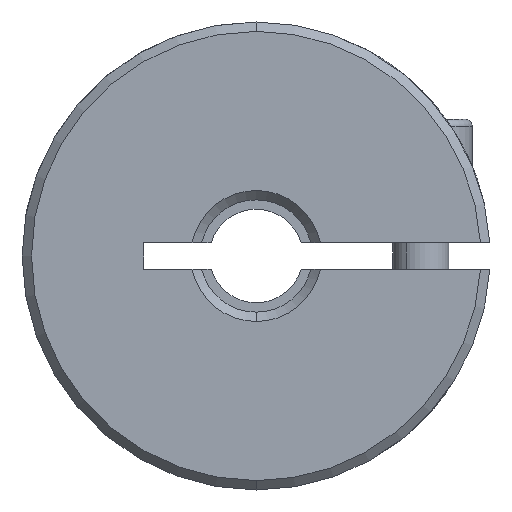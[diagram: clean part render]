
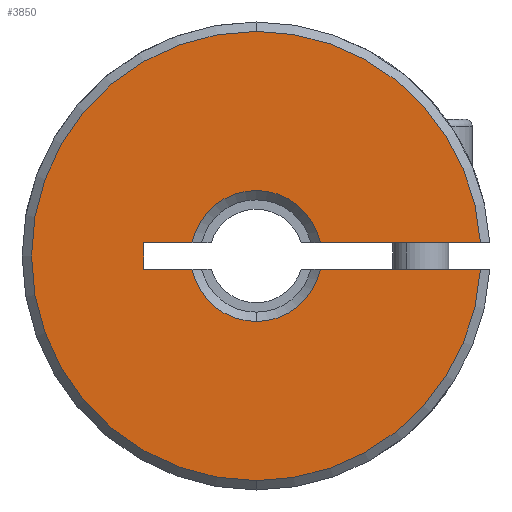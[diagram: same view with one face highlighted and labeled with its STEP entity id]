
A CAD part, front view. The second image highlights one B-rep face of the part: STEP entity #3850.
In plain terms, the highlighted planar face has unit normal (0, -1, 0).
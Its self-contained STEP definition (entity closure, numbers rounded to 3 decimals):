
#8 = AXIS2_PLACEMENT_3D ( 'NONE', #5583, #953, #74 ) ;
#74 = DIRECTION ( 'NONE',  ( 0., 0., 1. ) ) ;
#116 = VERTEX_POINT ( 'NONE', #2415 ) ;
#156 = ORIENTED_EDGE ( 'NONE', *, *, #5700, .T. ) ;
#168 = EDGE_CURVE ( 'NONE', #2471, #116, #1772, .T. ) ;
#170 = DIRECTION ( 'NONE',  ( 0., 1., 0. ) ) ;
#187 = LINE ( 'NONE', #5220, #5773 ) ;
#231 = CARTESIAN_POINT ( 'NONE',  ( 0., 0.25, 0. ) ) ;
#282 = ORIENTED_EDGE ( 'NONE', *, *, #2286, .F. ) ;
#663 = EDGE_CURVE ( 'NONE', #2029, #2471, #1395, .T. ) ;
#723 = VERTEX_POINT ( 'NONE', #3564 ) ;
#783 = CARTESIAN_POINT ( 'NONE',  ( 0., 0.25, 12. ) ) ;
#937 = ORIENTED_EDGE ( 'NONE', *, *, #4860, .F. ) ;
#953 = DIRECTION ( 'NONE',  ( 0., 1., 0. ) ) ;
#1044 = CARTESIAN_POINT ( 'NONE',  ( -3.429, 0.25, 0.7 ) ) ;
#1133 = DIRECTION ( 'NONE',  ( 0., 0., 1. ) ) ;
#1171 = LINE ( 'NONE', #5336, #2785 ) ;
#1395 = CIRCLE ( 'NONE', #1884, 12. ) ;
#1421 = ORIENTED_EDGE ( 'NONE', *, *, #663, .T. ) ;
#1518 = CARTESIAN_POINT ( 'NONE',  ( 0., 0.25, 0. ) ) ;
#1539 = DIRECTION ( 'NONE',  ( -1., 0., 0. ) ) ;
#1721 = DIRECTION ( 'NONE',  ( 0., 0., -1. ) ) ;
#1731 = PLANE ( 'NONE',  #3579 ) ;
#1772 = CIRCLE ( 'NONE', #4702, 12. ) ;
#1823 = VERTEX_POINT ( 'NONE', #5171 ) ;
#1884 = AXIS2_PLACEMENT_3D ( 'NONE', #2209, #4805, #4377 ) ;
#1959 = EDGE_CURVE ( 'NONE', #4342, #3743, #3010, .T. ) ;
#2029 = VERTEX_POINT ( 'NONE', #783 ) ;
#2055 = DIRECTION ( 'NONE',  ( -1., 0., 0. ) ) ;
#2209 = CARTESIAN_POINT ( 'NONE',  ( 0., 0.25, 0. ) ) ;
#2286 = EDGE_CURVE ( 'NONE', #3743, #3174, #1171, .T. ) ;
#2319 = DIRECTION ( 'NONE',  ( 0., 0., 1. ) ) ;
#2351 = CIRCLE ( 'NONE', #3674, 12. ) ;
#2410 = DIRECTION ( 'NONE',  ( 1., 0., 0. ) ) ;
#2415 = CARTESIAN_POINT ( 'NONE',  ( 11.98, 0.25, -0.7 ) ) ;
#2471 = VERTEX_POINT ( 'NONE', #5834 ) ;
#2514 = CARTESIAN_POINT ( 'NONE',  ( 0., 0.25, 0. ) ) ;
#2521 = VERTEX_POINT ( 'NONE', #2709 ) ;
#2533 = CARTESIAN_POINT ( 'NONE',  ( -6., 0.25, 0.7 ) ) ;
#2535 = VERTEX_POINT ( 'NONE', #2659 ) ;
#2659 = CARTESIAN_POINT ( 'NONE',  ( 11.98, 0.25, 0.7 ) ) ;
#2709 = CARTESIAN_POINT ( 'NONE',  ( 3.429, 0.25, 0.7 ) ) ;
#2785 = VECTOR ( 'NONE', #1721, 1000. ) ;
#2848 = CIRCLE ( 'NONE', #4078, 3.5 ) ;
#2860 = LINE ( 'NONE', #4651, #4240 ) ;
#2922 = DIRECTION ( 'NONE',  ( 0., -1., 0. ) ) ;
#3010 = LINE ( 'NONE', #3418, #5635 ) ;
#3104 = EDGE_LOOP ( 'NONE', ( #3431, #156, #937, #3861, #1421, #5509, #4909, #3384, #4492, #4458, #282 ) ) ;
#3148 = DIRECTION ( 'NONE',  ( 0., -1., 0. ) ) ;
#3174 = VERTEX_POINT ( 'NONE', #4405 ) ;
#3384 = ORIENTED_EDGE ( 'NONE', *, *, #5159, .T. ) ;
#3418 = CARTESIAN_POINT ( 'NONE',  ( -6., 0.25, 0.7 ) ) ;
#3431 = ORIENTED_EDGE ( 'NONE', *, *, #1959, .F. ) ;
#3442 = EDGE_CURVE ( 'NONE', #4091, #723, #2848, .T. ) ;
#3564 = CARTESIAN_POINT ( 'NONE',  ( -3.429, 0.25, -0.7 ) ) ;
#3579 = AXIS2_PLACEMENT_3D ( 'NONE', #3954, #4895, #5354 ) ;
#3674 = AXIS2_PLACEMENT_3D ( 'NONE', #2514, #3148, #4312 ) ;
#3743 = VERTEX_POINT ( 'NONE', #2533 ) ;
#3850 = ADVANCED_FACE ( 'NONE', ( #4842 ), #1731, .F. ) ;
#3861 = ORIENTED_EDGE ( 'NONE', *, *, #4592, .T. ) ;
#3876 = CARTESIAN_POINT ( 'NONE',  ( -6., 0.25, -0.7 ) ) ;
#3939 = DIRECTION ( 'NONE',  ( 0., 0., 1. ) ) ;
#3954 = CARTESIAN_POINT ( 'NONE',  ( -50., 0.25, 17.349 ) ) ;
#4071 = CIRCLE ( 'NONE', #5109, 3.5 ) ;
#4078 = AXIS2_PLACEMENT_3D ( 'NONE', #1518, #170, #2319 ) ;
#4091 = VERTEX_POINT ( 'NONE', #5718 ) ;
#4240 = VECTOR ( 'NONE', #2410, 1000. ) ;
#4312 = DIRECTION ( 'NONE',  ( 0., 0., 1. ) ) ;
#4342 = VERTEX_POINT ( 'NONE', #1044 ) ;
#4362 = EDGE_CURVE ( 'NONE', #3174, #723, #2860, .T. ) ;
#4377 = DIRECTION ( 'NONE',  ( 0., 0., 1. ) ) ;
#4405 = CARTESIAN_POINT ( 'NONE',  ( -6., 0.25, -0.7 ) ) ;
#4458 = ORIENTED_EDGE ( 'NONE', *, *, #4362, .F. ) ;
#4492 = ORIENTED_EDGE ( 'NONE', *, *, #3442, .T. ) ;
#4592 = EDGE_CURVE ( 'NONE', #2535, #2029, #2351, .T. ) ;
#4651 = CARTESIAN_POINT ( 'NONE',  ( -6., 0.25, -0.7 ) ) ;
#4702 = AXIS2_PLACEMENT_3D ( 'NONE', #231, #2922, #1133 ) ;
#4805 = DIRECTION ( 'NONE',  ( 0., -1., 0. ) ) ;
#4842 = FACE_OUTER_BOUND ( 'NONE', #3104, .T. ) ;
#4860 = EDGE_CURVE ( 'NONE', #2535, #2521, #187, .T. ) ;
#4895 = DIRECTION ( 'NONE',  ( 0., 1., 0. ) ) ;
#4909 = ORIENTED_EDGE ( 'NONE', *, *, #5190, .F. ) ;
#5003 = VECTOR ( 'NONE', #5747, 1000. ) ;
#5109 = AXIS2_PLACEMENT_3D ( 'NONE', #5719, #5775, #3939 ) ;
#5159 = EDGE_CURVE ( 'NONE', #1823, #4091, #4071, .T. ) ;
#5171 = CARTESIAN_POINT ( 'NONE',  ( 3.429, 0.25, -0.7 ) ) ;
#5190 = EDGE_CURVE ( 'NONE', #1823, #116, #5272, .T. ) ;
#5220 = CARTESIAN_POINT ( 'NONE',  ( -6., 0.25, 0.7 ) ) ;
#5272 = LINE ( 'NONE', #3876, #5003 ) ;
#5336 = CARTESIAN_POINT ( 'NONE',  ( -6., 0.25, -0.7 ) ) ;
#5354 = DIRECTION ( 'NONE',  ( 0., 0., 1. ) ) ;
#5404 = CIRCLE ( 'NONE', #8, 3.5 ) ;
#5509 = ORIENTED_EDGE ( 'NONE', *, *, #168, .T. ) ;
#5583 = CARTESIAN_POINT ( 'NONE',  ( 0., 0.25, 0. ) ) ;
#5635 = VECTOR ( 'NONE', #2055, 1000. ) ;
#5700 = EDGE_CURVE ( 'NONE', #4342, #2521, #5404, .T. ) ;
#5718 = CARTESIAN_POINT ( 'NONE',  ( 0., 0.25, -3.5 ) ) ;
#5719 = CARTESIAN_POINT ( 'NONE',  ( 0., 0.25, 0. ) ) ;
#5747 = DIRECTION ( 'NONE',  ( 1., 0., 0. ) ) ;
#5773 = VECTOR ( 'NONE', #1539, 1000. ) ;
#5775 = DIRECTION ( 'NONE',  ( 0., 1., 0. ) ) ;
#5834 = CARTESIAN_POINT ( 'NONE',  ( 0., 0.25, -12. ) ) ;
